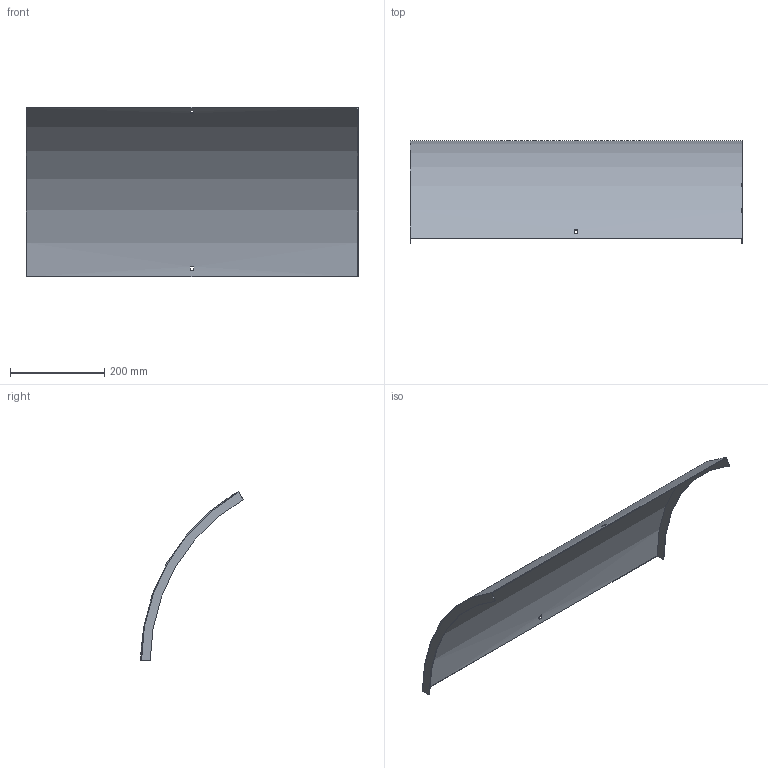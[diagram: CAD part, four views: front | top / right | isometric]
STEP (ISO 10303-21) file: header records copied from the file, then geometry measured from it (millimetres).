
FILE_DESCRIPTION (( 'STEP AP214' ), '1' );
FILE_NAME ('B2_41N3J700.step', '2025-02-21T10:42:26', ( '' ), ( '' ), 'SwSTEP 2.0', 'SolidWorks 2023', '' );
FILE_SCHEMA (( 'AUTOMOTIVE_DESIGN' ));
Length unit declared in the file: millimetre
Products named in the file (1): B2_41N3J700
Bounding box: 703 x 217 x 358.53 mm (x, y, z)
Volume: 479600.5 mm3; surface area: 643020.6 mm2
Topology: 1 solids, 1 shells, 18 faces, 48 edges, 32 vertices
Faces by surface type: plane 14, cylinder 4
Entity records: 599 total; most frequent: DIRECTION 102, CARTESIAN_POINT 99, ORIENTED_EDGE 96, EDGE_CURVE 48, AXIS2_PLACEMENT_3D 35, LINE 32, VERTEX_POINT 32, VECTOR 32
